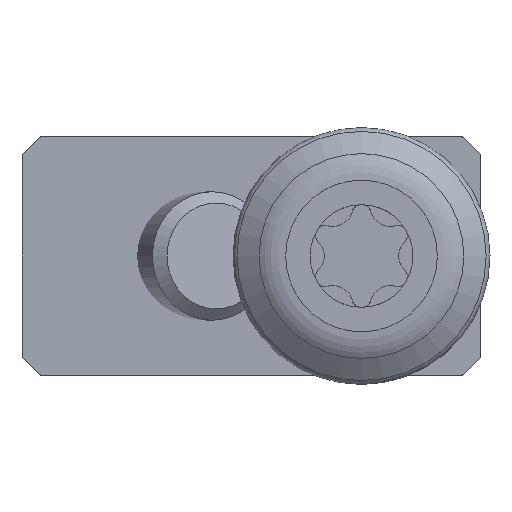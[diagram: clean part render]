
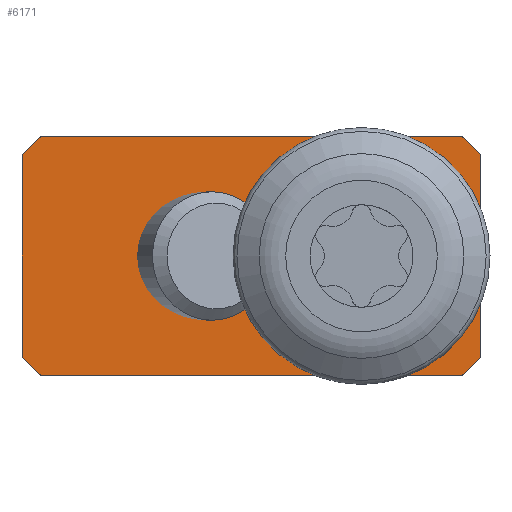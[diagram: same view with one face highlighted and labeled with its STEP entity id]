
A CAD part, front view. The second image highlights one B-rep face of the part: STEP entity #6171.
In plain terms, the highlighted planar face has unit normal (0, -1, 0).
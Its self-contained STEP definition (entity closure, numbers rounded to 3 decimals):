
#103=ELLIPSE('',#6781,3.192,2.96);
#431=LINE('',#9432,#989);
#449=LINE('',#9478,#1007);
#503=LINE('',#9678,#1061);
#575=LINE('',#9969,#1133);
#798=LINE('',#10485,#1356);
#799=LINE('',#10490,#1357);
#800=LINE('',#10495,#1358);
#801=LINE('',#10500,#1359);
#989=VECTOR('',#7337,1000.);
#1007=VECTOR('',#7371,1000.);
#1061=VECTOR('',#7523,1000.);
#1133=VECTOR('',#7749,1000.);
#1356=VECTOR('',#8468,1000.);
#1357=VECTOR('',#8473,1000.);
#1358=VECTOR('',#8478,1000.);
#1359=VECTOR('',#8483,1000.);
#2943=ORIENTED_EDGE('',*,*,#4047,.F.);
#2944=ORIENTED_EDGE('',*,*,#4048,.F.);
#2945=ORIENTED_EDGE('',*,*,#3533,.T.);
#2946=ORIENTED_EDGE('',*,*,#4049,.F.);
#2947=ORIENTED_EDGE('',*,*,#4050,.F.);
#2948=ORIENTED_EDGE('',*,*,#4051,.F.);
#2949=ORIENTED_EDGE('',*,*,#3657,.T.);
#2950=ORIENTED_EDGE('',*,*,#4052,.F.);
#2951=ORIENTED_EDGE('',*,*,#4053,.F.);
#2952=ORIENTED_EDGE('',*,*,#4054,.F.);
#2953=ORIENTED_EDGE('',*,*,#3799,.F.);
#2954=ORIENTED_EDGE('',*,*,#4055,.F.);
#2955=ORIENTED_EDGE('',*,*,#4056,.F.);
#2956=ORIENTED_EDGE('',*,*,#4057,.F.);
#2957=ORIENTED_EDGE('',*,*,#3555,.F.);
#2958=ORIENTED_EDGE('',*,*,#4058,.F.);
#2959=ORIENTED_EDGE('',*,*,#4059,.F.);
#2960=ORIENTED_EDGE('',*,*,#4060,.F.);
#3533=EDGE_CURVE('',#4436,#4435,#431,.T.);
#3555=EDGE_CURVE('',#4456,#4457,#449,.T.);
#3657=EDGE_CURVE('',#4553,#4554,#503,.T.);
#3799=EDGE_CURVE('',#4678,#4679,#575,.T.);
#4047=EDGE_CURVE('',#4705,#4705,#4991,.T.);
#4048=EDGE_CURVE('',#4706,#4706,#103,.F.);
#4049=EDGE_CURVE('',#4707,#4435,#4992,.T.);
#4050=EDGE_CURVE('',#4708,#4707,#798,.T.);
#4051=EDGE_CURVE('',#4553,#4708,#4993,.T.);
#4052=EDGE_CURVE('',#4709,#4554,#4994,.T.);
#4053=EDGE_CURVE('',#4710,#4709,#799,.T.);
#4054=EDGE_CURVE('',#4679,#4710,#4995,.T.);
#4055=EDGE_CURVE('',#4711,#4678,#4996,.T.);
#4056=EDGE_CURVE('',#4712,#4711,#800,.T.);
#4057=EDGE_CURVE('',#4457,#4712,#4997,.T.);
#4058=EDGE_CURVE('',#4713,#4456,#4998,.T.);
#4059=EDGE_CURVE('',#4714,#4713,#801,.T.);
#4060=EDGE_CURVE('',#4436,#4714,#4999,.T.);
#4435=VERTEX_POINT('',#9431);
#4436=VERTEX_POINT('',#9433);
#4456=VERTEX_POINT('',#9479);
#4457=VERTEX_POINT('',#9480);
#4553=VERTEX_POINT('',#9679);
#4554=VERTEX_POINT('',#9680);
#4678=VERTEX_POINT('',#9968);
#4679=VERTEX_POINT('',#9970);
#4705=VERTEX_POINT('',#10480);
#4706=VERTEX_POINT('',#10482);
#4707=VERTEX_POINT('',#10484);
#4708=VERTEX_POINT('',#10486);
#4709=VERTEX_POINT('',#10489);
#4710=VERTEX_POINT('',#10491);
#4711=VERTEX_POINT('',#10494);
#4712=VERTEX_POINT('',#10496);
#4713=VERTEX_POINT('',#10499);
#4714=VERTEX_POINT('',#10501);
#4991=CIRCLE('',#6780,4.55);
#4992=CIRCLE('',#6782,0.2);
#4993=CIRCLE('',#6783,0.2);
#4994=CIRCLE('',#6784,0.2);
#4995=CIRCLE('',#6785,0.2);
#4996=CIRCLE('',#6786,0.2);
#4997=CIRCLE('',#6787,0.2);
#4998=CIRCLE('',#6788,0.2);
#4999=CIRCLE('',#6789,0.2);
#5313=EDGE_LOOP('',(#2943));
#5314=EDGE_LOOP('',(#2944));
#5315=EDGE_LOOP('',(#2945,#2946,#2947,#2948,#2949,#2950,#2951,#2952,#2953,
#2954,#2955,#2956,#2957,#2958,#2959,#2960));
#5665=FACE_BOUND('',#5313,.T.);
#5666=FACE_BOUND('',#5314,.T.);
#5667=FACE_BOUND('',#5315,.T.);
#5885=PLANE('',#6779);
#6171=ADVANCED_FACE('',(#5665,#5666,#5667),#5885,.F.);
#6779=AXIS2_PLACEMENT_3D('',#10478,#8460,#8461);
#6780=AXIS2_PLACEMENT_3D('',#10479,#8462,#8463);
#6781=AXIS2_PLACEMENT_3D('',#10481,#8464,#8465);
#6782=AXIS2_PLACEMENT_3D('',#10483,#8466,#8467);
#6783=AXIS2_PLACEMENT_3D('',#10487,#8469,#8470);
#6784=AXIS2_PLACEMENT_3D('',#10488,#8471,#8472);
#6785=AXIS2_PLACEMENT_3D('',#10492,#8474,#8475);
#6786=AXIS2_PLACEMENT_3D('',#10493,#8476,#8477);
#6787=AXIS2_PLACEMENT_3D('',#10497,#8479,#8480);
#6788=AXIS2_PLACEMENT_3D('',#10498,#8481,#8482);
#6789=AXIS2_PLACEMENT_3D('',#10502,#8484,#8485);
#7337=DIRECTION('',(0.,0.,-1.));
#7371=DIRECTION('',(1.,0.,0.));
#7523=DIRECTION('',(1.,0.,0.));
#7749=DIRECTION('',(0.,0.,-1.));
#8460=DIRECTION('',(0.,1.,0.));
#8461=DIRECTION('',(0.,0.,1.));
#8462=DIRECTION('',(0.,-1.,0.));
#8463=DIRECTION('',(0.,0.,-1.));
#8464=DIRECTION('',(0.,1.,0.));
#8465=DIRECTION('',(1.,0.,0.));
#8466=DIRECTION('',(0.,1.,0.));
#8467=DIRECTION('',(1.,0.,0.));
#8468=DIRECTION('',(-0.707,0.,0.707));
#8469=DIRECTION('',(0.,1.,0.));
#8470=DIRECTION('',(1.,0.,0.));
#8471=DIRECTION('',(0.,1.,0.));
#8472=DIRECTION('',(1.,0.,0.));
#8473=DIRECTION('',(-0.707,0.,-0.707));
#8474=DIRECTION('',(0.,1.,0.));
#8475=DIRECTION('',(1.,0.,0.));
#8476=DIRECTION('',(0.,1.,0.));
#8477=DIRECTION('',(1.,0.,0.));
#8478=DIRECTION('',(0.707,0.,-0.707));
#8479=DIRECTION('',(0.,1.,0.));
#8480=DIRECTION('',(1.,0.,0.));
#8481=DIRECTION('',(0.,1.,0.));
#8482=DIRECTION('',(1.,0.,0.));
#8483=DIRECTION('',(0.707,0.,0.707));
#8484=DIRECTION('',(0.,1.,0.));
#8485=DIRECTION('',(1.,0.,0.));
#9431=CARTESIAN_POINT('',(-6.5,0.,-5.417));
#9432=CARTESIAN_POINT('',(-6.5,0.,6.5));
#9433=CARTESIAN_POINT('',(-6.5,0.,5.417));
#9478=CARTESIAN_POINT('',(-6.5,0.,6.5));
#9479=CARTESIAN_POINT('',(-5.417,0.,6.5));
#9480=CARTESIAN_POINT('',(17.417,0.,6.5));
#9678=CARTESIAN_POINT('',(-6.5,0.,-6.5));
#9679=CARTESIAN_POINT('',(-5.417,0.,-6.5));
#9680=CARTESIAN_POINT('',(17.417,0.,-6.5));
#9968=CARTESIAN_POINT('',(18.5,0.,5.417));
#9969=CARTESIAN_POINT('',(18.5,0.,6.5));
#9970=CARTESIAN_POINT('',(18.5,0.,-5.417));
#10478=CARTESIAN_POINT('',(-6.3,0.,3.975));
#10479=CARTESIAN_POINT('',(0.,0.,0.));
#10480=CARTESIAN_POINT('',(0.,0.,-4.55));
#10481=CARTESIAN_POINT('',(8.218,0.,0.));
#10482=CARTESIAN_POINT('',(11.41,0.,0.));
#10483=CARTESIAN_POINT('',(-6.3,0.,-5.417));
#10484=CARTESIAN_POINT('',(-6.441,0.,-5.559));
#10485=CARTESIAN_POINT('',(-5.559,0.,-6.441));
#10486=CARTESIAN_POINT('',(-5.559,0.,-6.441));
#10487=CARTESIAN_POINT('',(-5.417,0.,-6.3));
#10488=CARTESIAN_POINT('',(17.417,0.,-6.3));
#10489=CARTESIAN_POINT('',(17.559,0.,-6.441));
#10490=CARTESIAN_POINT('',(18.441,0.,-5.559));
#10491=CARTESIAN_POINT('',(18.441,0.,-5.559));
#10492=CARTESIAN_POINT('',(18.3,0.,-5.417));
#10493=CARTESIAN_POINT('',(18.3,0.,5.417));
#10494=CARTESIAN_POINT('',(18.441,0.,5.559));
#10495=CARTESIAN_POINT('',(17.559,0.,6.441));
#10496=CARTESIAN_POINT('',(17.559,0.,6.441));
#10497=CARTESIAN_POINT('',(17.417,0.,6.3));
#10498=CARTESIAN_POINT('',(-5.417,0.,6.3));
#10499=CARTESIAN_POINT('',(-5.559,0.,6.441));
#10500=CARTESIAN_POINT('',(-6.441,0.,5.559));
#10501=CARTESIAN_POINT('',(-6.441,0.,5.559));
#10502=CARTESIAN_POINT('',(-6.3,0.,5.417));
